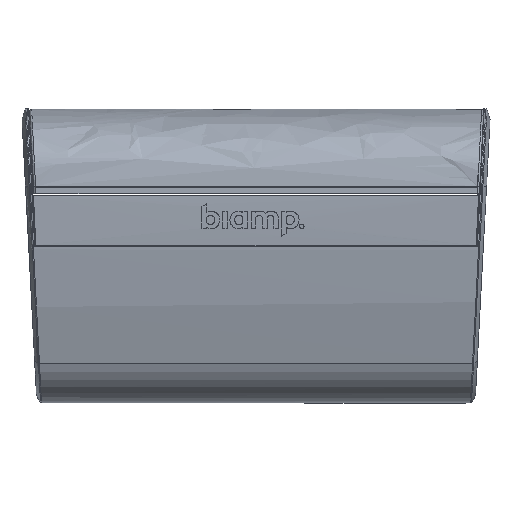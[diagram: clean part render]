
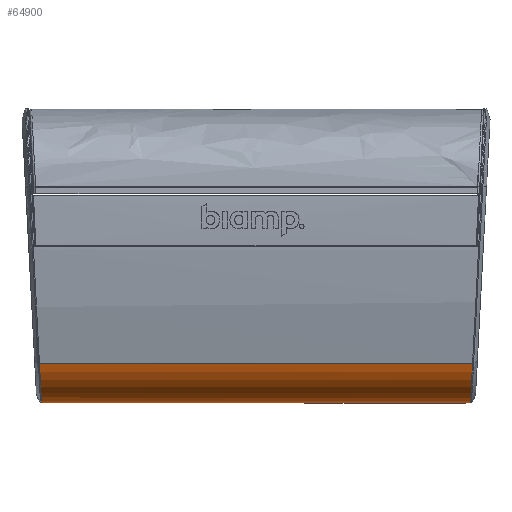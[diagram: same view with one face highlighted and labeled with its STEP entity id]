
A CAD part, left-side view. The second image highlights one B-rep face of the part: STEP entity #64900.
In plain terms, the highlighted cylindrical face has radius 42.87 mm (diameter 85.74 mm), a partial arc.
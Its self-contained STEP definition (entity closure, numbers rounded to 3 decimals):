
#539 = CARTESIAN_POINT ( 'NONE',  ( -71.246, 160.491, -210.529 ) ) ;
#894 = CARTESIAN_POINT ( 'NONE',  ( -76.855, -160.756, -205.414 ) ) ;
#957 = CARTESIAN_POINT ( 'NONE',  ( -53.94, 160.074, -218.611 ) ) ;
#1336 = CARTESIAN_POINT ( 'NONE',  ( -78.316, -160.845, -203.71 ) ) ;
#1401 = CARTESIAN_POINT ( 'NONE',  ( -60.348, 160.174, -216.658 ) ) ;
#1831 = CARTESIAN_POINT ( 'NONE',  ( -78.25, 160.84, -203.8 ) ) ;
#1908 = EDGE_CURVE ( 'NONE', #56412, #12875, #66298, .T. ) ;
#4394 = B_SPLINE_CURVE_WITH_KNOTS ( 'NONE', 3,
 ( #21836, #34051, #47126, #15738, #80256, #1336, #894, #27519, #27097, #54113, #54545, #73705, #81127, #41875, #80695, #42299, #8315, #33618 ),
 .UNSPECIFIED., .F., .F.,
 ( 4, 2, 2, 2, 2, 2, 2, 2, 4 ),
 ( 0., 0.125, 0.25, 0.375, 0.5, 0.625, 0.75, 0.875, 1. ),
 .UNSPECIFIED. ) ;
#4561 = CARTESIAN_POINT ( 'NONE',  ( -45.015, -175., -176.62 ) ) ;
#6638 = CARTESIAN_POINT ( 'NONE',  ( -79.64, 160.939, -201.897 ) ) ;
#7079 = CARTESIAN_POINT ( 'NONE',  ( -82.472, 161.168, -197.502 ) ) ;
#7506 = CARTESIAN_POINT ( 'NONE',  ( -80.8, 161.025, -200.232 ) ) ;
#7939 = CARTESIAN_POINT ( 'NONE',  ( -79.764, 160.948, -201.727 ) ) ;
#8315 = CARTESIAN_POINT ( 'NONE',  ( -47.254, -160.03, -219.49 ) ) ;
#12250 = CARTESIAN_POINT ( 'NONE',  ( -45.015, 163.5, -219.49 ) ) ;
#12875 = VERTEX_POINT ( 'NONE', #25161 ) ;
#13641 = CARTESIAN_POINT ( 'NONE',  ( -70.554, 160.463, -211.053 ) ) ;
#14079 = CARTESIAN_POINT ( 'NONE',  ( -58.516, 160.141, -217.309 ) ) ;
#14514 = CARTESIAN_POINT ( 'NONE',  ( -70.233, 160.451, -211.289 ) ) ;
#14851 = DIRECTION ( 'NONE',  ( 0., -1., 0. ) ) ;
#14940 = CARTESIAN_POINT ( 'NONE',  ( -66.384, 160.319, -213.852 ) ) ;
#15738 = CARTESIAN_POINT ( 'NONE',  ( -82.133, -161.132, -198.186 ) ) ;
#16805 = DIRECTION ( 'NONE',  ( 0., 1., 0. ) ) ;
#18419 = CARTESIAN_POINT ( 'NONE',  ( -45.015, 160.031, -219.49 ) ) ;
#19752 = CARTESIAN_POINT ( 'NONE',  ( -73.546, 160.589, -208.636 ) ) ;
#20179 = CARTESIAN_POINT ( 'NONE',  ( -70.367, 160.456, -211.191 ) ) ;
#20603 = CARTESIAN_POINT ( 'NONE',  ( -84.967, 161.435, -192.36 ) ) ;
#21049 = CARTESIAN_POINT ( 'NONE',  ( -47.253, 160.03, -219.49 ) ) ;
#21064 = EDGE_CURVE ( 'NONE', #12875, #68777, #4394, .T. ) ;
#21476 = CARTESIAN_POINT ( 'NONE',  ( -63.396, 160.241, -215.366 ) ) ;
#21836 = CARTESIAN_POINT ( 'NONE',  ( -85.74, -161.557, -190.011 ) ) ;
#25161 = CARTESIAN_POINT ( 'NONE',  ( -85.74, -161.557, -190.011 ) ) ;
#25420 = EDGE_CURVE ( 'NONE', #28036, #68777, #78092, .T. ) ;
#26633 = CARTESIAN_POINT ( 'NONE',  ( -85.74, -175., -190.011 ) ) ;
#26729 = CARTESIAN_POINT ( 'NONE',  ( -79.699, 160.943, -201.816 ) ) ;
#27097 = CARTESIAN_POINT ( 'NONE',  ( -71.973, -160.516, -210.028 ) ) ;
#27160 = CARTESIAN_POINT ( 'NONE',  ( -58.741, 160.144, -217.234 ) ) ;
#27519 = CARTESIAN_POINT ( 'NONE',  ( -73.683, -160.592, -208.573 ) ) ;
#27583 = CARTESIAN_POINT ( 'NONE',  ( -70.927, 160.478, -210.774 ) ) ;
#28021 = CARTESIAN_POINT ( 'NONE',  ( -81.085, 161.048, -199.795 ) ) ;
#28036 = VERTEX_POINT ( 'NONE', #18419 ) ;
#28448 = CARTESIAN_POINT ( 'NONE',  ( -74.36, 160.627, -207.892 ) ) ;
#33618 = CARTESIAN_POINT ( 'NONE',  ( -45.015, -160.031, -219.49 ) ) ;
#33681 = CARTESIAN_POINT ( 'NONE',  ( -70.194, 160.45, -211.317 ) ) ;
#34037 = B_SPLINE_CURVE_WITH_KNOTS ( 'NONE', 3,
 ( #74214, #20603, #66833, #7079, #74635, #28021, #7506, #54614, #80760, #61583, #7939, #26729, #34112, #61150, #73334, #6638, #1831, #81201, #28448, #19752, #34549, #47193, #539, #27583, #13641, #20179, #47629, #14514, #73775, #33681, #60294, #14940, #21476, #60717, #46317, #1401, #41066, #80316, #27160, #14079, #48049, #55034, #40638, #46747, #957, #41497, #21049, #54180 ),
 .UNSPECIFIED., .F., .F.,
 ( 4, 2, 2, 2, 1, 1, 1, 1, 1, 2, 2, 2, 2, 2, 1, 1, 1, 1, 2, 2, 2, 2, 2, 1, 1, 1, 2, 2, 2, 4 ),
 ( 0., 0.125, 0.187, 0.219, 0.234, 0.242, 0.246, 0.248, 0.249, 0.25, 0.25, 0.375, 0.437, 0.469, 0.484, 0.492, 0.496, 0.498, 0.499, 0.5, 0.625, 0.687, 0.719, 0.734, 0.742, 0.746, 0.748, 0.75, 0.875, 1. ),
 .UNSPECIFIED. ) ;
#34051 = CARTESIAN_POINT ( 'NONE',  ( -85.041, -161.447, -192.135 ) ) ;
#34112 = CARTESIAN_POINT ( 'NONE',  ( -79.667, 160.941, -201.86 ) ) ;
#34549 = CARTESIAN_POINT ( 'NONE',  ( -72.299, 160.534, -209.691 ) ) ;
#34717 = CARTESIAN_POINT ( 'NONE',  ( -85.74, 161.557, -190.011 ) ) ;
#36406 = DIRECTION ( 'NONE',  ( 0., 0., 1. ) ) ;
#36757 = ORIENTED_EDGE ( 'NONE', *, *, #25420, .T. ) ;
#40638 = CARTESIAN_POINT ( 'NONE',  ( -58.323, 160.137, -217.372 ) ) ;
#41066 = CARTESIAN_POINT ( 'NONE',  ( -59.578, 160.159, -216.942 ) ) ;
#41497 = CARTESIAN_POINT ( 'NONE',  ( -49.496, 160.039, -219.314 ) ) ;
#41875 = CARTESIAN_POINT ( 'NONE',  ( -56.103, -160.1, -218.092 ) ) ;
#42299 = CARTESIAN_POINT ( 'NONE',  ( -49.494, -160.038, -219.314 ) ) ;
#45216 = VECTOR ( 'NONE', #79810, 1000. ) ;
#46317 = CARTESIAN_POINT ( 'NONE',  ( -60.86, 160.184, -216.458 ) ) ;
#46747 = CARTESIAN_POINT ( 'NONE',  ( -56.14, 160.101, -218.083 ) ) ;
#47126 = CARTESIAN_POINT ( 'NONE',  ( -84.176, -161.339, -194.206 ) ) ;
#47193 = CARTESIAN_POINT ( 'NONE',  ( -71.88, 160.516, -210.033 ) ) ;
#47292 = ORIENTED_EDGE ( 'NONE', *, *, #1908, .F. ) ;
#47629 = CARTESIAN_POINT ( 'NONE',  ( -70.273, 160.453, -211.259 ) ) ;
#48049 = CARTESIAN_POINT ( 'NONE',  ( -58.419, 160.139, -217.341 ) ) ;
#54113 = CARTESIAN_POINT ( 'NONE',  ( -68.347, -160.38, -212.654 ) ) ;
#54180 = CARTESIAN_POINT ( 'NONE',  ( -45.015, 160.031, -219.49 ) ) ;
#54545 = CARTESIAN_POINT ( 'NONE',  ( -66.431, -160.319, -213.825 ) ) ;
#54614 = CARTESIAN_POINT ( 'NONE',  ( -80.367, 160.992, -200.872 ) ) ;
#55034 = CARTESIAN_POINT ( 'NONE',  ( -58.354, 160.138, -217.362 ) ) ;
#56412 = VERTEX_POINT ( 'NONE', #34717 ) ;
#57499 = AXIS2_PLACEMENT_3D ( 'NONE', #4561, #16805, #36406 ) ;
#59447 = ORIENTED_EDGE ( 'NONE', *, *, #66177, .T. ) ;
#60294 = CARTESIAN_POINT ( 'NONE',  ( -68.323, 160.38, -212.673 ) ) ;
#60717 = CARTESIAN_POINT ( 'NONE',  ( -62.387, 160.217, -215.828 ) ) ;
#61150 = CARTESIAN_POINT ( 'NONE',  ( -79.653, 160.94, -201.879 ) ) ;
#61583 = CARTESIAN_POINT ( 'NONE',  ( -79.892, 160.957, -201.548 ) ) ;
#63433 = FACE_OUTER_BOUND ( 'NONE', #73088, .T. ) ;
#64900 = ADVANCED_FACE ( 'NONE', ( #63433 ), #76070, .T. ) ;
#66177 = EDGE_CURVE ( 'NONE', #56412, #28036, #34037, .T. ) ;
#66298 = LINE ( 'NONE', #26633, #69618 ) ;
#66833 = CARTESIAN_POINT ( 'NONE',  ( -84.029, 161.322, -194.53 ) ) ;
#68777 = VERTEX_POINT ( 'NONE', #79428 ) ;
#69618 = VECTOR ( 'NONE', #14851, 1000. ) ;
#73088 = EDGE_LOOP ( 'NONE', ( #59447, #36757, #76802, #47292 ) ) ;
#73334 = CARTESIAN_POINT ( 'NONE',  ( -79.644, 160.939, -201.892 ) ) ;
#73705 = CARTESIAN_POINT ( 'NONE',  ( -62.439, -160.215, -215.853 ) ) ;
#73775 = CARTESIAN_POINT ( 'NONE',  ( -70.206, 160.45, -211.308 ) ) ;
#74214 = CARTESIAN_POINT ( 'NONE',  ( -85.74, 161.557, -190.011 ) ) ;
#74635 = CARTESIAN_POINT ( 'NONE',  ( -81.928, 161.118, -198.447 ) ) ;
#76070 = CYLINDRICAL_SURFACE ( 'NONE', #57499, 42.87 ) ;
#76802 = ORIENTED_EDGE ( 'NONE', *, *, #21064, .F. ) ;
#78092 = LINE ( 'NONE', #12250, #45216 ) ;
#79428 = CARTESIAN_POINT ( 'NONE',  ( -45.015, -160.031, -219.49 ) ) ;
#79810 = DIRECTION ( 'NONE',  ( 0., -1., 0. ) ) ;
#80256 = CARTESIAN_POINT ( 'NONE',  ( -80.955, -161.032, -200.096 ) ) ;
#80316 = CARTESIAN_POINT ( 'NONE',  ( -59.192, 160.152, -217.079 ) ) ;
#80695 = CARTESIAN_POINT ( 'NONE',  ( -53.918, -160.073, -218.615 ) ) ;
#80760 = CARTESIAN_POINT ( 'NONE',  ( -80.149, 160.976, -201.188 ) ) ;
#81127 = CARTESIAN_POINT ( 'NONE',  ( -60.363, -160.17, -216.711 ) ) ;
#81201 = CARTESIAN_POINT ( 'NONE',  ( -76.743, 160.75, -205.536 ) ) ;
